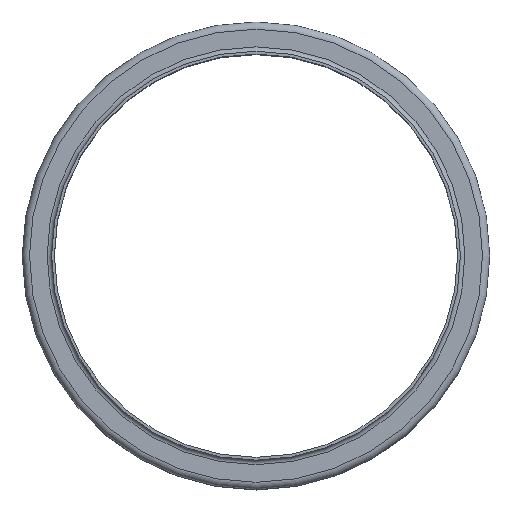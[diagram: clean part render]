
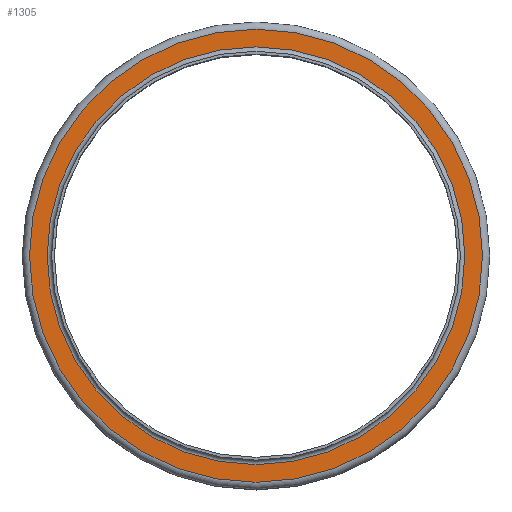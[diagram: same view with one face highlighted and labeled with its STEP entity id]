
A CAD part, top view. The second image highlights one B-rep face of the part: STEP entity #1305.
In plain terms, the highlighted planar face has unit normal (0, 0, 1).
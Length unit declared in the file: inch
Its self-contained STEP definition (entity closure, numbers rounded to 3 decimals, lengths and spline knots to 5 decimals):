
#130=FACE_BOUND('',#384,.T.);
#229=FACE_OUTER_BOUND('',#383,.T.);
#383=EDGE_LOOP('',(#1108));
#384=EDGE_LOOP('',(#1109));
#545=CIRCLE('',#1574,4.4675);
#546=CIRCLE('',#1576,4.845);
#658=VERTEX_POINT('',#2470);
#659=VERTEX_POINT('',#2474);
#811=EDGE_CURVE('',#658,#658,#545,.T.);
#812=EDGE_CURVE('',#659,#659,#546,.T.);
#1108=ORIENTED_EDGE('',*,*,#812,.F.);
#1109=ORIENTED_EDGE('',*,*,#811,.T.);
#1206=PLANE('',#1575);
#1305=ADVANCED_FACE('',(#229,#130),#1206,.T.);
#1574=AXIS2_PLACEMENT_3D('',#2472,#2070,#2071);
#1575=AXIS2_PLACEMENT_3D('',#2473,#2072,#2073);
#1576=AXIS2_PLACEMENT_3D('',#2475,#2074,#2075);
#2070=DIRECTION('center_axis',(0.,0.,-1.));
#2071=DIRECTION('ref_axis',(1.,0.,0.));
#2072=DIRECTION('center_axis',(0.,0.,1.));
#2073=DIRECTION('ref_axis',(1.,0.,0.));
#2074=DIRECTION('center_axis',(0.,0.,-1.));
#2075=DIRECTION('ref_axis',(1.,0.,0.));
#2470=CARTESIAN_POINT('',(4.4675,0.,-0.095));
#2472=CARTESIAN_POINT('Origin',(0.,0.,-0.095));
#2473=CARTESIAN_POINT('Origin',(0.,4.845,-0.095));
#2474=CARTESIAN_POINT('',(4.845,0.,-0.095));
#2475=CARTESIAN_POINT('Origin',(0.,0.,-0.095));
